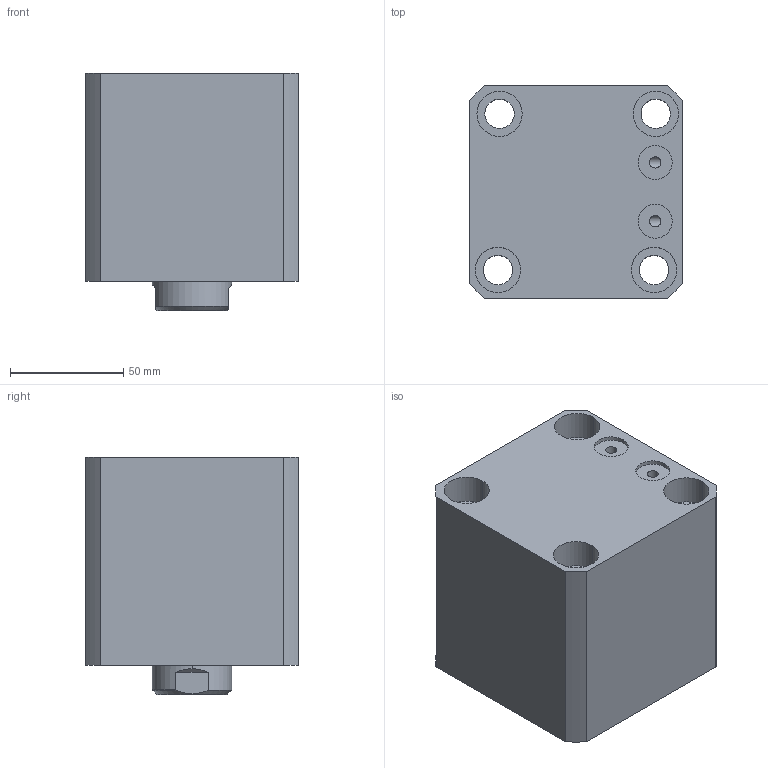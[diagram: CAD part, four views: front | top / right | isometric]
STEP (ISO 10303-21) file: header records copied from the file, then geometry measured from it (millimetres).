
FILE_DESCRIPTION (( 'STEP AP214' ), '1' );
FILE_NAME ('chtb-sdmb63x25n_asm.STEP', '2018-05-16T06:48:40', ( 'Windows' ), ( 'Microsoft' ), 'SwSTEP 2.0', 'SolidWorks 2015', '' );
FILE_SCHEMA (( 'AUTOMOTIVE_DESIGN' ));
Length unit declared in the file: millimetre
Products named in the file (4): chtb-sdmb63x25n_asm; CHTB-SDMB63X25NBT; CHTB63X25NHSG; CHTB-63QG
Assembly tree (3 placements, depth 2):
  chtb-sdmb63x25n_asm
    CHTB-63QG
    CHTB63X25NHSG
    CHTB-SDMB63X25NBT
Bounding box: 94 x 94 x 105 mm (x, y, z)
Volume: 684605.5 mm3; surface area: 123919.8 mm2
Topology: 3 solids, 3 shells, 164 faces, 468 edges, 318 vertices
Faces by surface type: cylinder 107, plane 30, bspline 12, cone 8, torus 7
Entity records: 17708 total; most frequent: CARTESIAN_POINT 13594, ORIENTED_EDGE 924, DIRECTION 707, EDGE_CURVE 462, VERTEX_POINT 318, AXIS2_PLACEMENT_3D 284, EDGE_LOOP 196, ADVANCED_FACE 164
